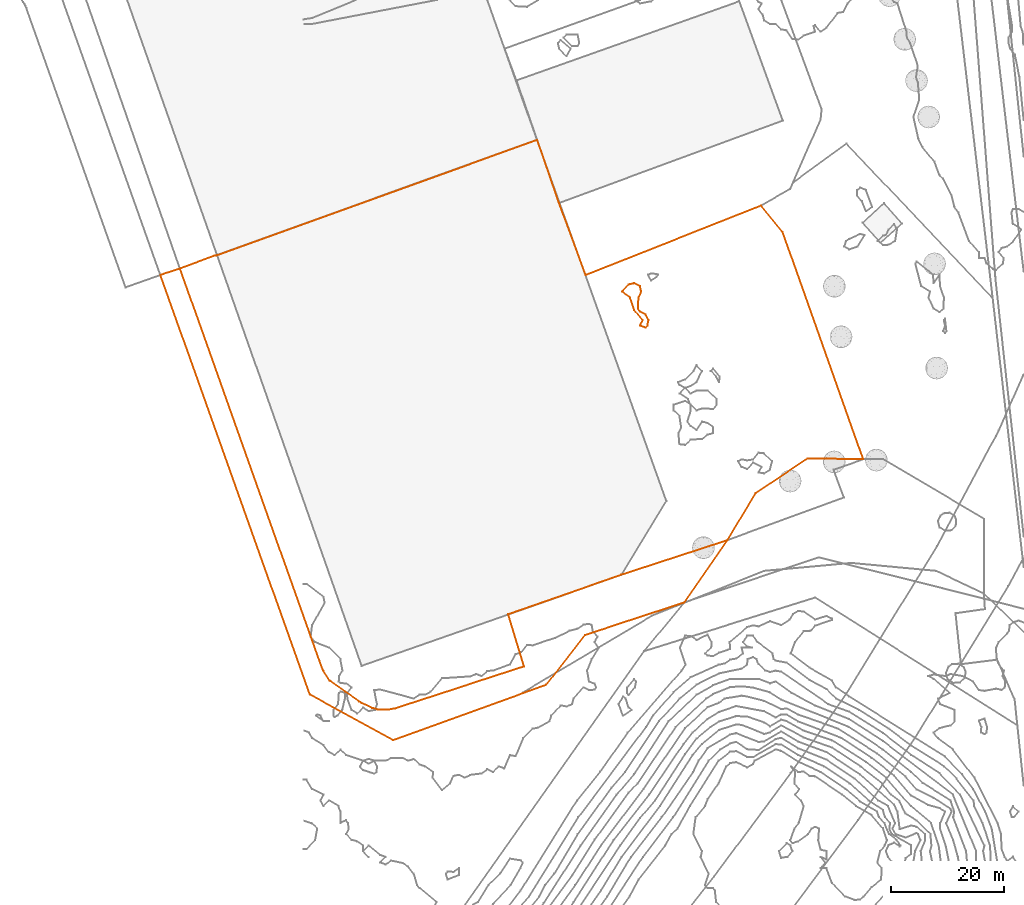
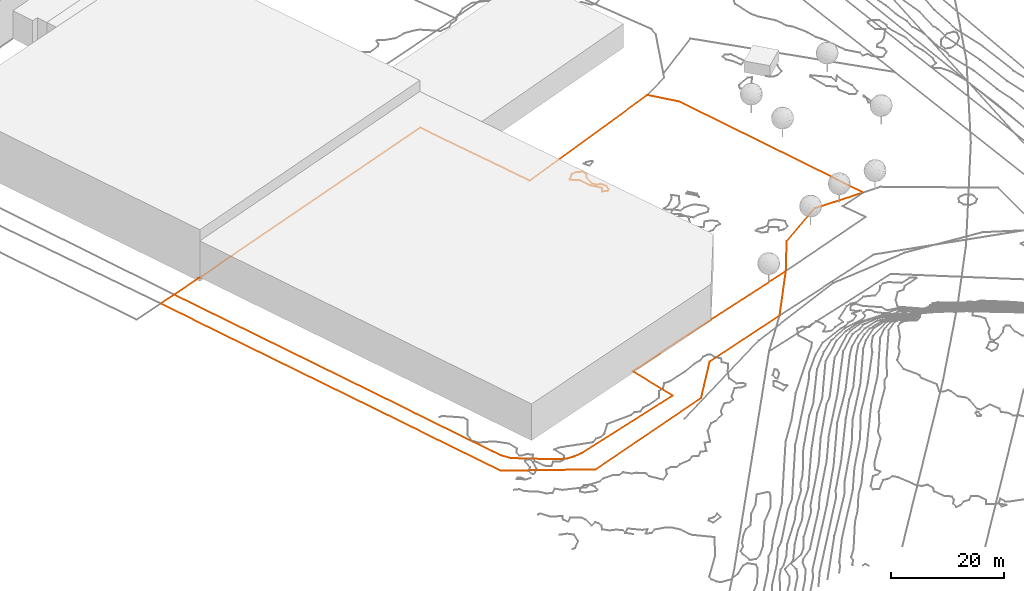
# Not in any storey, part 284 of 419: 3 proxies.
"""IFC2X3 model written with IfcOpenShell, lengths in metres."""

from ifc_helpers import new_model, entity, si_unit, frame, origin_with_axes, place, context, subcontext, project, element, save


model = new_model("IFC2X3")

# Units and contexts
model_context = context("Model", 3, precision=1e-05, world=origin_with_axes())
body_context = subcontext(model_context, "Body", "Model", "MODEL_VIEW")
ifc_project = project(units=[si_unit("AREAUNIT", "SQUARE_METRE"), si_unit("LENGTHUNIT", "METRE")], contexts=[model_context])

# Proxies
proxy_1_placement = place(None, frame((-22.2879795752, 896.0276909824, 21.1200008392), z_axis=(0.0, 0.0, 1.0), x_axis=(1.0, 0.0, 0.0)))
element("IfcBuildingElementProxy", 1, at=proxy_1_placement, Name="Cadastre 260", ObjectType="NOTDEFINED", context=body_context, shape_type="GeometricCurveSet", body=[
    entity("IfcGeometricCurveSet", [entity("IfcPolyline", [entity("IfcCartesianPoint", [120.91, -33.7799999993, 0.1529546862]), entity("IfcCartesianPoint", [111.0800000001, -33.6099999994, 0.1078386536]), entity("IfcCartesianPoint", [101.85, -39.7599999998, 0.0023218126]), entity("IfcCartesianPoint", [96.87, -48.0800000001, 0.3008540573]), entity("IfcCartesianPoint", [78.0800000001, -54.2199999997, 0.2112791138]), entity("IfcCartesianPoint", [58.0700000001, -61.2000000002, 0.2803157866]), entity("IfcCartesianPoint", [60.89, -70.4199999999, -0.3489427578]), entity("IfcCartesianPoint", [38.0800000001, -77.8499999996, -0.2557201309]), entity("IfcCartesianPoint", [36.55, -78.1099999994, -0.2263013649]), entity("IfcCartesianPoint", [34.99, -78.04, -0.2056518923]), entity("IfcCartesianPoint", [34.0, -77.7599999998, -0.1312526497]), entity("IfcCartesianPoint", [32.16, -76.8899999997, -0.0855844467]), entity("IfcCartesianPoint", [31.7100000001, -76.6099999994, -0.0863721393]), entity("IfcCartesianPoint", [29.2000000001, -74.8799999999, -0.1148007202]), entity("IfcCartesianPoint", [26.65, -73.0599999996, -0.2536110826]), entity("IfcCartesianPoint", [26.48, -72.8999999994, -0.2569201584]), entity("IfcCartesianPoint", [25.4, -71.29, -0.2594005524]), entity("IfcCartesianPoint", [24.7000000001, -69.4900000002, -0.219401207]), entity("IfcCartesianPoint", [0.0, 0.0, 0.0]), entity("IfcCartesianPoint", [6.15, 2.2700000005, -0.0100002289]), entity("IfcCartesianPoint", [6.59, 2.3200000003, -0.0100002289]), entity("IfcCartesianPoint", [63.22, 22.7400000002, 0.0699996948]), entity("IfcCartesianPoint", [67.0700000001, 11.5899999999, 0.1863910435]), entity("IfcCartesianPoint", [71.79, -1.1699999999, 0.1355831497]), entity("IfcCartesianPoint", [102.8200000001, 11.1200000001, 0.2727487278]), entity("IfcCartesianPoint", [106.64, 6.46, 0.3557986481]), entity("IfcCartesianPoint", [120.91, -33.7799999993, 0.1529546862])])]),
])
proxy_2_placement = place(None, frame((-25.7479795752, 894.8676909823, 21.1252999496), z_axis=(0.0, 0.0, 1.0), x_axis=(1.0, 0.0, 0.0)))
element("IfcBuildingElementProxy", 2, at=proxy_2_placement, Name="Cadastre 263", ObjectType="NOTDEFINED", context=body_context, shape_type="GeometricCurveSet", body=[
    entity("IfcGeometricCurveSet", [entity("IfcPolyline", [entity("IfcCartesianPoint", [3.46, 1.1600000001, -0.0052991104]), entity("IfcCartesianPoint", [28.16, -68.3300000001, -0.2247003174]), entity("IfcCartesianPoint", [28.86, -70.1299999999, -0.2646996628]), entity("IfcCartesianPoint", [29.9399999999, -71.7399999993, -0.2622192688]), entity("IfcCartesianPoint", [30.11, -71.8999999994, -0.2589101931]), entity("IfcCartesianPoint", [32.66, -73.7199999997, -0.1200998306]), entity("IfcCartesianPoint", [35.17, -75.4499999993, -0.0916712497]), entity("IfcCartesianPoint", [35.62, -75.7299999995, -0.0908835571]), entity("IfcCartesianPoint", [37.46, -76.5999999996, -0.1365517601]), entity("IfcCartesianPoint", [38.45, -76.8799999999, -0.2109510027]), entity("IfcCartesianPoint", [40.01, -76.9499999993, -0.2316004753]), entity("IfcCartesianPoint", [41.54, -76.6899999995, -0.2610192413]), entity("IfcCartesianPoint", [64.35, -69.2599999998, -0.3542418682]), entity("IfcCartesianPoint", [61.53, -60.04, 0.2750166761]), entity("IfcCartesianPoint", [81.54, -53.0599999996, 0.2059800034]), entity("IfcCartesianPoint", [100.33, -46.9199999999, 0.2955549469]), entity("IfcCartesianPoint", [92.6799999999, -57.96, 0.1247000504]), entity("IfcCartesianPoint", [75.11, -63.7199999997, -0.1489503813]), entity("IfcCartesianPoint", [68.28, -72.5199999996, -0.2627593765]), entity("IfcCartesianPoint", [41.17, -82.3199999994, -0.2239102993]), entity("IfcCartesianPoint", [26.45, -74.2599999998, -0.2433071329]), entity("IfcCartesianPoint", [0.0, 0.0, 0.0]), entity("IfcCartesianPoint", [3.46, 1.1600000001, -0.0052991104])])]),
])
proxy_3_placement = place(None, frame((55.9253484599, 891.8976909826, 21.0), z_axis=(0.0, 0.0, 1.0), x_axis=(1.0, 0.0, 0.0)))
element("IfcBuildingElementProxy", 3, at=proxy_3_placement, Name="Contour 21.0 m", ObjectType="NOTDEFINED", context=body_context, shape_type="GeometricCurveSet", body=[
    entity("IfcGeometricCurveSet", [entity("IfcPolyline", [entity("IfcCartesianPoint", [4.1666719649, -6.333333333, 0.0]), entity("IfcCartesianPoint", [4.5000052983, -6.0, 0.0]), entity("IfcCartesianPoint", [4.6666219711, -5.0, 0.0]), entity("IfcCartesianPoint", [4.1666719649, -4.0000999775, 0.0]), entity("IfcCartesianPoint", [3.1666719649, -3.5000499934, 0.0]), entity("IfcCartesianPoint", [2.8333386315, -3.0, 0.0]), entity("IfcCartesianPoint", [2.9166719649, -1.0, 0.0]), entity("IfcCartesianPoint", [3.4166719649, 0.0, 0.0]), entity("IfcCartesianPoint", [3.1666386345, 1.0, 0.0]), entity("IfcCartesianPoint", [2.1666719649, 1.499983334, 0.0]), entity("IfcCartesianPoint", [1.1666719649, 1.3076968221, 0.0]), entity("IfcCartesianPoint", [0.0, 0.0, 0.0]), entity("IfcCartesianPoint", [1.4166719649, -1.0, 0.0]), entity("IfcCartesianPoint", [2.1666719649, -3.2222269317, 0.0]), entity("IfcCartesianPoint", [3.6667219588, -5.0, 0.0]), entity("IfcCartesianPoint", [3.1667719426, -6.0, 0.0]), entity("IfcCartesianPoint", [4.1666719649, -6.333333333, 0.0])])]),
])

save(model, "model.ifc")
